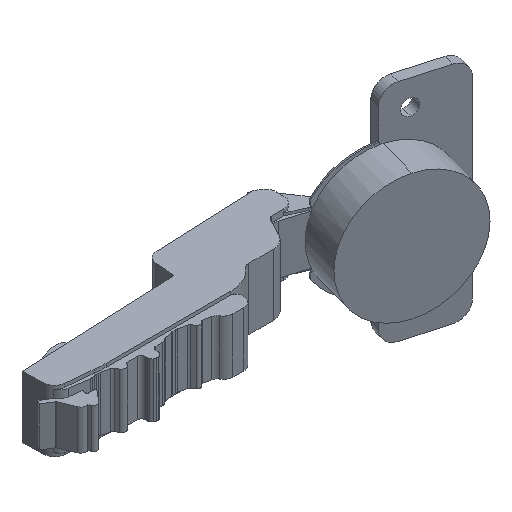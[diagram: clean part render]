
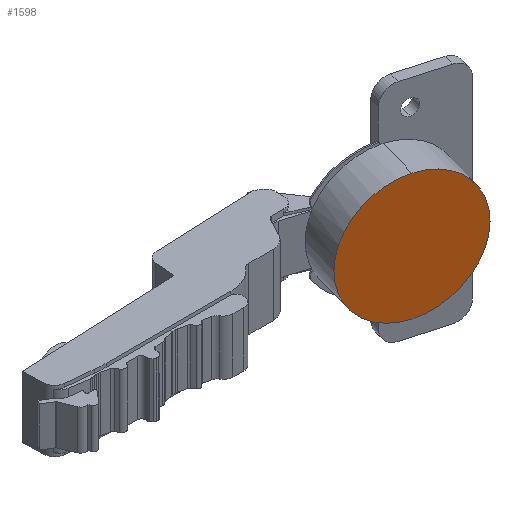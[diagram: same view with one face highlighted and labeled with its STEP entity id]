
A CAD part, isometric view. The second image highlights one B-rep face of the part: STEP entity #1598.
In plain terms, the highlighted planar face has unit normal (-0.273, -0.962, 0).
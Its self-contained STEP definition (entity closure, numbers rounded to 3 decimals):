
#1 = DIRECTION ( 'NONE',  ( 0., 0., 1. ) ) ;
#585 = EDGE_CURVE ( 'NONE', #4333, #4879, #3168, .T. ) ;
#791 = DIRECTION ( 'NONE',  ( 0.273, 0.962, 0. ) ) ;
#1164 = DIRECTION ( 'NONE',  ( 0., 0., -1. ) ) ;
#1381 = CARTESIAN_POINT ( 'NONE',  ( 0.125, -5.693, -25.9 ) ) ;
#1482 = CARTESIAN_POINT ( 'NONE',  ( 0.125, -5.693, -8.5 ) ) ;
#1490 = CARTESIAN_POINT ( 'NONE',  ( 0.125, -5.693, 8.9 ) ) ;
#1598 = ADVANCED_FACE ( 'NONE', ( #2288 ), #1923, .F. ) ;
#1923 = PLANE ( 'NONE',  #4553 ) ;
#2284 = DIRECTION ( 'NONE',  ( 0., 0., -1. ) ) ;
#2288 = FACE_OUTER_BOUND ( 'NONE', #3888, .T. ) ;
#2503 = EDGE_CURVE ( 'NONE', #4879, #4333, #3428, .T. ) ;
#2625 = ORIENTED_EDGE ( 'NONE', *, *, #2503, .T. ) ;
#2664 = CARTESIAN_POINT ( 'NONE',  ( 10.674, -8.69, -16.2 ) ) ;
#2774 = CARTESIAN_POINT ( 'NONE',  ( 0.125, -5.693, -8.5 ) ) ;
#3068 = DIRECTION ( 'NONE',  ( -0.273, -0.962, 0. ) ) ;
#3168 = CIRCLE ( 'NONE', #4387, 17.4 ) ;
#3428 = CIRCLE ( 'NONE', #3672, 17.4 ) ;
#3563 = DIRECTION ( 'NONE',  ( -0.273, -0.962, 0. ) ) ;
#3672 = AXIS2_PLACEMENT_3D ( 'NONE', #2774, #3563, #1164 ) ;
#3888 = EDGE_LOOP ( 'NONE', ( #2625, #4196 ) ) ;
#4196 = ORIENTED_EDGE ( 'NONE', *, *, #585, .T. ) ;
#4333 = VERTEX_POINT ( 'NONE', #1381 ) ;
#4387 = AXIS2_PLACEMENT_3D ( 'NONE', #1482, #3068, #2284 ) ;
#4553 = AXIS2_PLACEMENT_3D ( 'NONE', #2664, #791, #1 ) ;
#4879 = VERTEX_POINT ( 'NONE', #1490 ) ;
